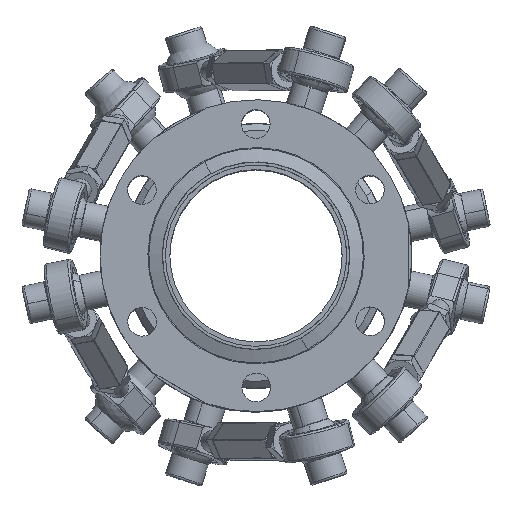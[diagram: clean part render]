
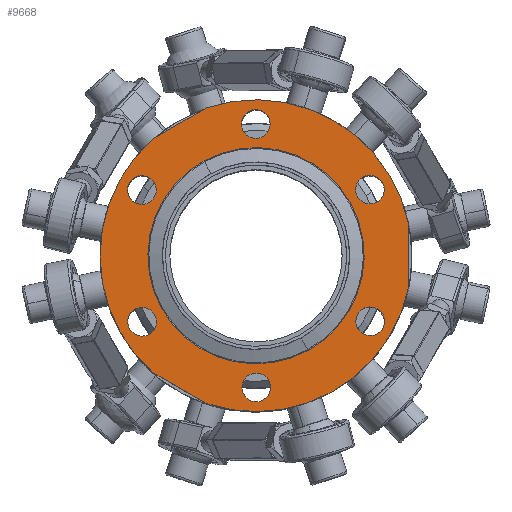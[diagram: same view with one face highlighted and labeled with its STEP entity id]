
A CAD part, top view. The second image highlights one B-rep face of the part: STEP entity #9668.
In plain terms, the highlighted planar face has unit normal (0, 0, 1).
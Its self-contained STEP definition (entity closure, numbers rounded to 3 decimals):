
#9491=AXIS2_PLACEMENT_3D('Plane Axis2P3D',#9488,#9489,#9490) ;
#9495=AXIS2_PLACEMENT_3D('Circle Axis2P3D',#9493,#9494,$) ;
#9511=AXIS2_PLACEMENT_3D('Circle Axis2P3D',#9509,#9510,$) ;
#9518=AXIS2_PLACEMENT_3D('Circle Axis2P3D',#9516,#9517,$) ;
#9523=AXIS2_PLACEMENT_3D('Circle Axis2P3D',#9521,#9522,$) ;
#9544=AXIS2_PLACEMENT_3D('Circle Axis2P3D',#9542,#9543,$) ;
#9553=AXIS2_PLACEMENT_3D('Circle Axis2P3D',#9551,#9552,$) ;
#9562=AXIS2_PLACEMENT_3D('Circle Axis2P3D',#9560,#9561,$) ;
#9571=AXIS2_PLACEMENT_3D('Circle Axis2P3D',#9569,#9570,$) ;
#9580=AXIS2_PLACEMENT_3D('Circle Axis2P3D',#9578,#9579,$) ;
#9589=AXIS2_PLACEMENT_3D('Circle Axis2P3D',#9587,#9588,$) ;
#9598=AXIS2_PLACEMENT_3D('Circle Axis2P3D',#9596,#9597,$) ;
#9607=AXIS2_PLACEMENT_3D('Circle Axis2P3D',#9605,#9606,$) ;
#9616=AXIS2_PLACEMENT_3D('Circle Axis2P3D',#9614,#9615,$) ;
#9625=AXIS2_PLACEMENT_3D('Circle Axis2P3D',#9623,#9624,$) ;
#9634=AXIS2_PLACEMENT_3D('Circle Axis2P3D',#9632,#9633,$) ;
#9643=AXIS2_PLACEMENT_3D('Circle Axis2P3D',#9641,#9642,$) ;
#9652=AXIS2_PLACEMENT_3D('Circle Axis2P3D',#9650,#9651,$) ;
#9661=AXIS2_PLACEMENT_3D('Circle Axis2P3D',#9659,#9660,$) ;
#9438=CARTESIAN_POINT('Vertex',(34.063,-6.875,91.1)) ;
#9454=CARTESIAN_POINT('Vertex',(34.037,7.005,91.1)) ;
#9457=CARTESIAN_POINT('Line Origine',(34.05,0.065,91.1)) ;
#9488=CARTESIAN_POINT('Axis2P3D Location',(-0.066,34.75,91.1)) ;
#9493=CARTESIAN_POINT('Axis2P3D Location',(0.,0.,91.1)) ;
#9497=CARTESIAN_POINT('Vertex',(-23.084,25.974,91.1)) ;
#9499=CARTESIAN_POINT('Vertex',(-22.985,-26.062,91.1)) ;
#9502=CARTESIAN_POINT('Line Origine',(-16.969,-29.521,91.1)) ;
#9506=CARTESIAN_POINT('Vertex',(-10.952,-32.979,91.1)) ;
#9509=CARTESIAN_POINT('Axis2P3D Location',(0.,0.,91.1)) ;
#9513=CARTESIAN_POINT('Vertex',(16.718,-30.464,91.1)) ;
#9516=CARTESIAN_POINT('Axis2P3D Location',(0.,0.,91.1)) ;
#9521=CARTESIAN_POINT('Axis2P3D Location',(0.,0.,91.1)) ;
#9525=CARTESIAN_POINT('Vertex',(-11.078,32.937,91.1)) ;
#9528=CARTESIAN_POINT('Line Origine',(-17.081,29.456,91.1)) ;
#9542=CARTESIAN_POINT('Axis2P3D Location',(0.056,-29.35,91.1)) ;
#9546=CARTESIAN_POINT('Vertex',(-3.143,-29.432,91.1)) ;
#9548=CARTESIAN_POINT('Vertex',(3.255,-29.268,91.1)) ;
#9551=CARTESIAN_POINT('Axis2P3D Location',(0.056,-29.35,91.1)) ;
#9560=CARTESIAN_POINT('Axis2P3D Location',(-25.446,14.627,91.1)) ;
#9564=CARTESIAN_POINT('Vertex',(-26.975,11.815,91.1)) ;
#9566=CARTESIAN_POINT('Vertex',(-23.917,17.438,91.1)) ;
#9569=CARTESIAN_POINT('Axis2P3D Location',(-25.446,14.627,91.1)) ;
#9578=CARTESIAN_POINT('Axis2P3D Location',(0.,0.,91.1)) ;
#9582=CARTESIAN_POINT('Vertex',(-11.594,21.128,91.1)) ;
#9584=CARTESIAN_POINT('Vertex',(11.594,-21.128,91.1)) ;
#9587=CARTESIAN_POINT('Axis2P3D Location',(0.,0.,91.1)) ;
#9596=CARTESIAN_POINT('Axis2P3D Location',(-25.39,-14.723,91.1)) ;
#9600=CARTESIAN_POINT('Vertex',(-27.06,-11.994,91.1)) ;
#9602=CARTESIAN_POINT('Vertex',(-23.72,-17.453,91.1)) ;
#9605=CARTESIAN_POINT('Axis2P3D Location',(-25.39,-14.723,91.1)) ;
#9614=CARTESIAN_POINT('Axis2P3D Location',(25.446,-14.627,91.1)) ;
#9618=CARTESIAN_POINT('Vertex',(23.917,-17.438,91.1)) ;
#9620=CARTESIAN_POINT('Vertex',(26.975,-11.815,91.1)) ;
#9623=CARTESIAN_POINT('Axis2P3D Location',(25.446,-14.627,91.1)) ;
#9632=CARTESIAN_POINT('Axis2P3D Location',(25.39,14.723,91.1)) ;
#9636=CARTESIAN_POINT('Vertex',(27.06,11.994,91.1)) ;
#9638=CARTESIAN_POINT('Vertex',(23.72,17.453,91.1)) ;
#9641=CARTESIAN_POINT('Axis2P3D Location',(25.39,14.723,91.1)) ;
#9650=CARTESIAN_POINT('Axis2P3D Location',(-0.056,29.35,91.1)) ;
#9654=CARTESIAN_POINT('Vertex',(3.143,29.432,91.1)) ;
#9656=CARTESIAN_POINT('Vertex',(-3.255,29.268,91.1)) ;
#9659=CARTESIAN_POINT('Axis2P3D Location',(-0.056,29.35,91.1)) ;
#9458=DIRECTION('Vector Direction',(-0.002,1.,0.)) ;
#9489=DIRECTION('Axis2P3D Direction',(0.,0.,1.)) ;
#9490=DIRECTION('Axis2P3D XDirection',(-0.002,1.,0.)) ;
#9494=DIRECTION('Axis2P3D Direction',(0.,0.,1.)) ;
#9503=DIRECTION('Vector Direction',(0.867,-0.498,0.)) ;
#9510=DIRECTION('Axis2P3D Direction',(0.,0.,1.)) ;
#9517=DIRECTION('Axis2P3D Direction',(0.,0.,1.)) ;
#9522=DIRECTION('Axis2P3D Direction',(0.,0.,1.)) ;
#9529=DIRECTION('Vector Direction',(-0.865,-0.502,0.)) ;
#9543=DIRECTION('Axis2P3D Direction',(0.,0.,1.)) ;
#9552=DIRECTION('Axis2P3D Direction',(0.,0.,1.)) ;
#9561=DIRECTION('Axis2P3D Direction',(0.,0.,1.)) ;
#9570=DIRECTION('Axis2P3D Direction',(0.,0.,1.)) ;
#9579=DIRECTION('Axis2P3D Direction',(0.,0.,1.)) ;
#9588=DIRECTION('Axis2P3D Direction',(0.,0.,1.)) ;
#9597=DIRECTION('Axis2P3D Direction',(0.,0.,1.)) ;
#9606=DIRECTION('Axis2P3D Direction',(0.,0.,1.)) ;
#9615=DIRECTION('Axis2P3D Direction',(0.,0.,1.)) ;
#9624=DIRECTION('Axis2P3D Direction',(0.,0.,1.)) ;
#9633=DIRECTION('Axis2P3D Direction',(0.,0.,1.)) ;
#9642=DIRECTION('Axis2P3D Direction',(0.,0.,1.)) ;
#9651=DIRECTION('Axis2P3D Direction',(0.,0.,1.)) ;
#9660=DIRECTION('Axis2P3D Direction',(0.,0.,1.)) ;
#9459=VECTOR('Line Direction',#9458,1.) ;
#9504=VECTOR('Line Direction',#9503,1.) ;
#9530=VECTOR('Line Direction',#9529,1.) ;
#9534=ORIENTED_EDGE('',*,*,#9501,.T.) ;
#9535=ORIENTED_EDGE('',*,*,#9508,.F.) ;
#9536=ORIENTED_EDGE('',*,*,#9515,.T.) ;
#9537=ORIENTED_EDGE('',*,*,#9520,.T.) ;
#9538=ORIENTED_EDGE('',*,*,#9461,.F.) ;
#9539=ORIENTED_EDGE('',*,*,#9527,.T.) ;
#9540=ORIENTED_EDGE('',*,*,#9532,.F.) ;
#9557=ORIENTED_EDGE('',*,*,#9550,.F.) ;
#9558=ORIENTED_EDGE('',*,*,#9555,.F.) ;
#9575=ORIENTED_EDGE('',*,*,#9568,.F.) ;
#9576=ORIENTED_EDGE('',*,*,#9573,.F.) ;
#9593=ORIENTED_EDGE('',*,*,#9586,.F.) ;
#9594=ORIENTED_EDGE('',*,*,#9591,.F.) ;
#9611=ORIENTED_EDGE('',*,*,#9604,.F.) ;
#9612=ORIENTED_EDGE('',*,*,#9609,.F.) ;
#9629=ORIENTED_EDGE('',*,*,#9622,.F.) ;
#9630=ORIENTED_EDGE('',*,*,#9627,.F.) ;
#9647=ORIENTED_EDGE('',*,*,#9640,.F.) ;
#9648=ORIENTED_EDGE('',*,*,#9645,.F.) ;
#9665=ORIENTED_EDGE('',*,*,#9658,.F.) ;
#9666=ORIENTED_EDGE('',*,*,#9663,.F.) ;
#9559=FACE_BOUND('',#9556,.T.) ;
#9577=FACE_BOUND('',#9574,.T.) ;
#9595=FACE_BOUND('',#9592,.T.) ;
#9613=FACE_BOUND('',#9610,.T.) ;
#9631=FACE_BOUND('',#9628,.T.) ;
#9649=FACE_BOUND('',#9646,.T.) ;
#9667=FACE_BOUND('',#9664,.T.) ;
#9668=ADVANCED_FACE('Brep With Voids.1',(#9541,#9559,#9577,#9595,#9613,#9631,#9649,#9667),#9492,.T.) ;
#9496=CIRCLE('generated circle',#9495,34.75) ;
#9512=CIRCLE('generated circle',#9511,34.75) ;
#9519=CIRCLE('generated circle',#9518,34.75) ;
#9524=CIRCLE('generated circle',#9523,34.75) ;
#9545=CIRCLE('generated circle',#9544,3.2) ;
#9554=CIRCLE('generated circle',#9553,3.2) ;
#9563=CIRCLE('generated circle',#9562,3.2) ;
#9572=CIRCLE('generated circle',#9571,3.2) ;
#9581=CIRCLE('generated circle',#9580,24.1) ;
#9590=CIRCLE('generated circle',#9589,24.1) ;
#9599=CIRCLE('generated circle',#9598,3.2) ;
#9608=CIRCLE('generated circle',#9607,3.2) ;
#9617=CIRCLE('generated circle',#9616,3.2) ;
#9626=CIRCLE('generated circle',#9625,3.2) ;
#9635=CIRCLE('generated circle',#9634,3.2) ;
#9644=CIRCLE('generated circle',#9643,3.2) ;
#9653=CIRCLE('generated circle',#9652,3.2) ;
#9662=CIRCLE('generated circle',#9661,3.2) ;
#9461=EDGE_CURVE('',#9455,#9439,#9460,.F.) ;
#9501=EDGE_CURVE('',#9498,#9500,#9496,.T.) ;
#9508=EDGE_CURVE('',#9507,#9500,#9505,.F.) ;
#9515=EDGE_CURVE('',#9507,#9514,#9512,.T.) ;
#9520=EDGE_CURVE('',#9514,#9439,#9519,.T.) ;
#9527=EDGE_CURVE('',#9455,#9526,#9524,.T.) ;
#9532=EDGE_CURVE('',#9498,#9526,#9531,.F.) ;
#9550=EDGE_CURVE('',#9547,#9549,#9545,.T.) ;
#9555=EDGE_CURVE('',#9549,#9547,#9554,.T.) ;
#9568=EDGE_CURVE('',#9565,#9567,#9563,.T.) ;
#9573=EDGE_CURVE('',#9567,#9565,#9572,.T.) ;
#9586=EDGE_CURVE('',#9583,#9585,#9581,.T.) ;
#9591=EDGE_CURVE('',#9585,#9583,#9590,.T.) ;
#9604=EDGE_CURVE('',#9601,#9603,#9599,.T.) ;
#9609=EDGE_CURVE('',#9603,#9601,#9608,.T.) ;
#9622=EDGE_CURVE('',#9619,#9621,#9617,.T.) ;
#9627=EDGE_CURVE('',#9621,#9619,#9626,.T.) ;
#9640=EDGE_CURVE('',#9637,#9639,#9635,.T.) ;
#9645=EDGE_CURVE('',#9639,#9637,#9644,.T.) ;
#9658=EDGE_CURVE('',#9655,#9657,#9653,.T.) ;
#9663=EDGE_CURVE('',#9657,#9655,#9662,.T.) ;
#9533=EDGE_LOOP('',(#9534,#9535,#9536,#9537,#9538,#9539,#9540)) ;
#9556=EDGE_LOOP('',(#9557,#9558)) ;
#9574=EDGE_LOOP('',(#9575,#9576)) ;
#9592=EDGE_LOOP('',(#9593,#9594)) ;
#9610=EDGE_LOOP('',(#9611,#9612)) ;
#9628=EDGE_LOOP('',(#9629,#9630)) ;
#9646=EDGE_LOOP('',(#9647,#9648)) ;
#9664=EDGE_LOOP('',(#9665,#9666)) ;
#9541=FACE_OUTER_BOUND('',#9533,.T.) ;
#9460=LINE('Line',#9457,#9459) ;
#9505=LINE('Line',#9502,#9504) ;
#9531=LINE('Line',#9528,#9530) ;
#9492=PLANE('',#9491) ;
#9439=VERTEX_POINT('',#9438) ;
#9455=VERTEX_POINT('',#9454) ;
#9498=VERTEX_POINT('',#9497) ;
#9500=VERTEX_POINT('',#9499) ;
#9507=VERTEX_POINT('',#9506) ;
#9514=VERTEX_POINT('',#9513) ;
#9526=VERTEX_POINT('',#9525) ;
#9547=VERTEX_POINT('',#9546) ;
#9549=VERTEX_POINT('',#9548) ;
#9565=VERTEX_POINT('',#9564) ;
#9567=VERTEX_POINT('',#9566) ;
#9583=VERTEX_POINT('',#9582) ;
#9585=VERTEX_POINT('',#9584) ;
#9601=VERTEX_POINT('',#9600) ;
#9603=VERTEX_POINT('',#9602) ;
#9619=VERTEX_POINT('',#9618) ;
#9621=VERTEX_POINT('',#9620) ;
#9637=VERTEX_POINT('',#9636) ;
#9639=VERTEX_POINT('',#9638) ;
#9655=VERTEX_POINT('',#9654) ;
#9657=VERTEX_POINT('',#9656) ;
